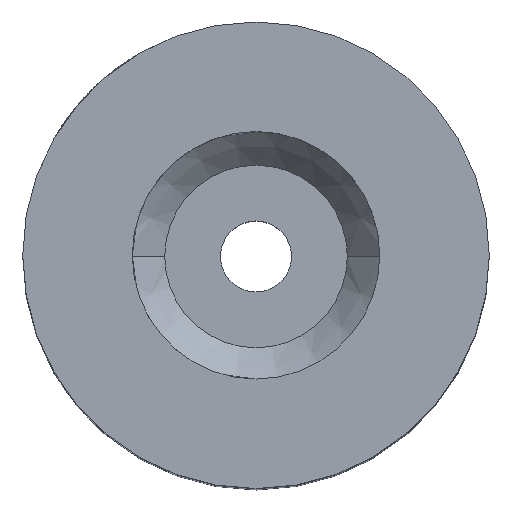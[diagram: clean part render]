
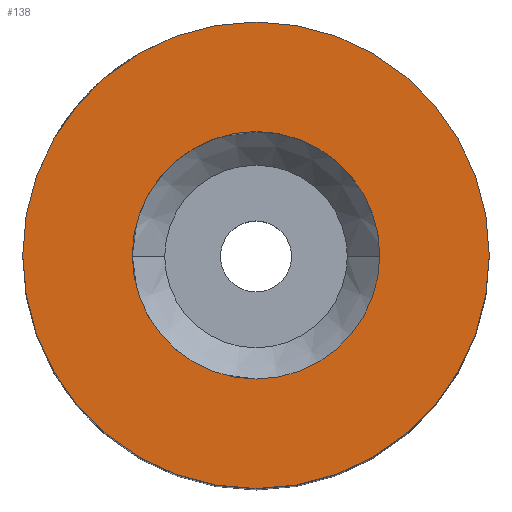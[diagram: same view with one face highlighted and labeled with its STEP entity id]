
A CAD part, top view. The second image highlights one B-rep face of the part: STEP entity #138.
In plain terms, the highlighted planar face has unit normal (0, 0, 1).
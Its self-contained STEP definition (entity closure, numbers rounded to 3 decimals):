
#110=PLANE('',#445);
#117=FACE_BOUND('',#187,.T.);
#118=FACE_BOUND('',#188,.T.);
#138=ADVANCED_FACE('',(#117,#118),#110,.T.);
#187=EDGE_LOOP('',(#265,#266));
#188=EDGE_LOOP('',(#267,#268));
#217=CIRCLE('',#441,11.5);
#218=CIRCLE('',#442,11.5);
#219=CIRCLE('',#443,6.1);
#220=CIRCLE('',#444,6.1);
#265=ORIENTED_EDGE('',*,*,#361,.F.);
#266=ORIENTED_EDGE('',*,*,#362,.F.);
#267=ORIENTED_EDGE('',*,*,#363,.T.);
#268=ORIENTED_EDGE('',*,*,#364,.T.);
#325=VERTEX_POINT('',#605);
#326=VERTEX_POINT('',#606);
#327=VERTEX_POINT('',#609);
#328=VERTEX_POINT('',#610);
#361=EDGE_CURVE('',#325,#326,#217,.T.);
#362=EDGE_CURVE('',#326,#325,#218,.T.);
#363=EDGE_CURVE('',#327,#328,#219,.T.);
#364=EDGE_CURVE('',#328,#327,#220,.T.);
#441=AXIS2_PLACEMENT_3D('',#604,#518,#519);
#442=AXIS2_PLACEMENT_3D('',#607,#520,#521);
#443=AXIS2_PLACEMENT_3D('',#608,#522,#523);
#444=AXIS2_PLACEMENT_3D('',#611,#524,#525);
#445=AXIS2_PLACEMENT_3D('',#612,#526,#527);
#518=DIRECTION('',(0.,0.,-1.));
#519=DIRECTION('',(0.,1.,0.));
#520=DIRECTION('',(0.,0.,-1.));
#521=DIRECTION('',(0.,-1.,0.));
#522=DIRECTION('',(0.,0.,-1.));
#523=DIRECTION('',(0.,-1.,0.));
#524=DIRECTION('',(0.,0.,-1.));
#525=DIRECTION('',(0.,1.,0.));
#526=DIRECTION('',(0.,0.,1.));
#527=DIRECTION('',(0.,-1.,0.));
#604=CARTESIAN_POINT('',(0.,0.,40.));
#605=CARTESIAN_POINT('',(11.5,0.,40.));
#606=CARTESIAN_POINT('',(-11.5,0.,40.));
#607=CARTESIAN_POINT('',(0.,0.,40.));
#608=CARTESIAN_POINT('',(0.,0.,40.));
#609=CARTESIAN_POINT('',(-6.1,0.,40.));
#610=CARTESIAN_POINT('',(6.1,0.,40.));
#611=CARTESIAN_POINT('',(0.,0.,40.));
#612=CARTESIAN_POINT('',(0.,0.,40.));
